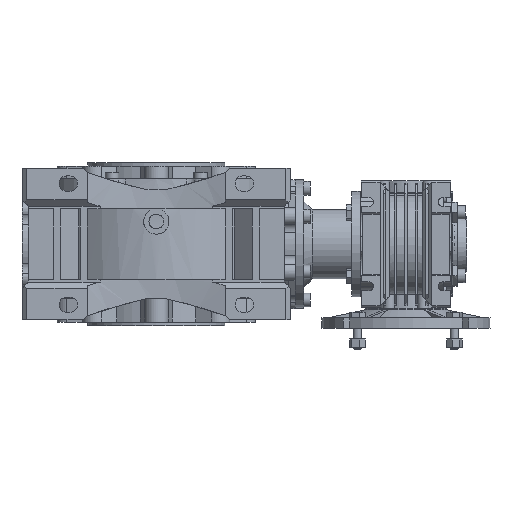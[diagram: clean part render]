
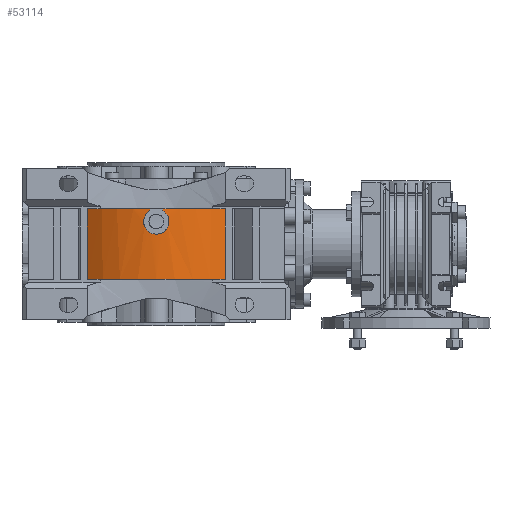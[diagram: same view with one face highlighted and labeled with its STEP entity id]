
A CAD part, front view. The second image highlights one B-rep face of the part: STEP entity #53114.
In plain terms, the highlighted cylindrical face has radius 107.7 mm (diameter 215.4 mm), a partial arc.
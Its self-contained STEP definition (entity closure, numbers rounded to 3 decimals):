
#1905=B_SPLINE_CURVE_WITH_KNOTS('',3,(#74558,#74559,#74560,#74561,#74562,
#74563,#74564,#74565,#74566,#74567,#74568,#74569,#74570,#74571,#74572,#74573,
#74574),.UNSPECIFIED.,.F.,.F.,(4,1,1,1,1,1,1,1,1,1,1,1,1,1,4),(0.,0.004,
0.008,0.012,0.016,0.02,
0.023,0.027,0.031,0.035,
0.039,0.047,0.051,0.055,
0.063),.UNSPECIFIED.);
#2463=CIRCLE('',#55632,107.7);
#2467=CIRCLE('',#55638,107.7);
#2469=CIRCLE('',#55640,107.7);
#6230=ORIENTED_EDGE('',*,*,#16209,.F.);
#6231=ORIENTED_EDGE('',*,*,#16742,.T.);
#6232=ORIENTED_EDGE('',*,*,#16743,.T.);
#6233=ORIENTED_EDGE('',*,*,#16744,.T.);
#6234=ORIENTED_EDGE('',*,*,#16215,.F.);
#6235=ORIENTED_EDGE('',*,*,#16220,.T.);
#6236=ORIENTED_EDGE('',*,*,#16200,.F.);
#6237=ORIENTED_EDGE('',*,*,#16218,.T.);
#16200=EDGE_CURVE('',#21679,#21680,#2463,.F.);
#16209=EDGE_CURVE('',#21686,#21688,#2467,.F.);
#16215=EDGE_CURVE('',#21693,#21694,#2469,.F.);
#16218=EDGE_CURVE('',#21679,#21688,#25132,.T.);
#16220=EDGE_CURVE('',#21693,#21680,#25134,.F.);
#16742=EDGE_CURVE('',#21686,#22043,#25501,.F.);
#16743=EDGE_CURVE('',#22043,#22044,#1905,.T.);
#16744=EDGE_CURVE('',#22044,#21694,#25502,.T.);
#21679=VERTEX_POINT('',#73477);
#21680=VERTEX_POINT('',#73479);
#21686=VERTEX_POINT('',#73495);
#21688=VERTEX_POINT('',#73498);
#21693=VERTEX_POINT('',#73508);
#21694=VERTEX_POINT('',#73510);
#22043=VERTEX_POINT('',#74557);
#22044=VERTEX_POINT('',#74575);
#25132=LINE('',#73515,#28582);
#25134=LINE('',#73518,#28584);
#25501=LINE('',#74556,#28951);
#25502=LINE('',#74576,#28952);
#28582=VECTOR('',#60786,1000.);
#28584=VECTOR('',#60790,1000.);
#28951=VECTOR('',#61769,1000.);
#28952=VECTOR('',#61770,1000.);
#31950=EDGE_LOOP('',(#6230,#6231,#6232,#6233,#6234,#6235,#6236,#6237));
#34622=FACE_BOUND('',#31950,.T.);
#36962=CYLINDRICAL_SURFACE('',#55948,107.7);
#53114=ADVANCED_FACE('',(#34622),#36962,.T.);
#55632=AXIS2_PLACEMENT_3D('',#73478,#60755,#60756);
#55638=AXIS2_PLACEMENT_3D('',#73497,#60772,#60773);
#55640=AXIS2_PLACEMENT_3D('',#73509,#60780,#60781);
#55948=AXIS2_PLACEMENT_3D('',#74555,#61767,#61768);
#60755=DIRECTION('',(0.,0.,-1.));
#60756=DIRECTION('',(-1.,0.,0.));
#60772=DIRECTION('',(0.,0.,1.));
#60773=DIRECTION('',(1.,0.,0.));
#60780=DIRECTION('',(0.,0.,1.));
#60781=DIRECTION('',(1.,0.,0.));
#60786=DIRECTION('',(0.,0.,-1.));
#60790=DIRECTION('',(0.,0.,-1.));
#61767=DIRECTION('',(0.,0.,-1.));
#61768=DIRECTION('',(-1.,0.,0.));
#61769=DIRECTION('',(0.,0.,-1.));
#61770=DIRECTION('',(0.,0.,-1.));
#73477=CARTESIAN_POINT('',(-65.5,-85.493,33.5));
#73478=CARTESIAN_POINT('',(0.,0.,33.5));
#73479=CARTESIAN_POINT('',(65.5,-85.493,33.5));
#73495=CARTESIAN_POINT('',(-6.,-107.533,-33.5));
#73497=CARTESIAN_POINT('',(0.,0.,-33.5));
#73498=CARTESIAN_POINT('',(-65.5,-85.493,-33.5));
#73508=CARTESIAN_POINT('',(65.5,-85.493,-33.5));
#73509=CARTESIAN_POINT('',(0.,0.,-33.5));
#73510=CARTESIAN_POINT('',(6.,-107.533,-33.5));
#73515=CARTESIAN_POINT('',(-65.5,-85.493,40.));
#73518=CARTESIAN_POINT('',(65.5,-85.493,40.));
#74555=CARTESIAN_POINT('',(0.,0.,40.));
#74556=CARTESIAN_POINT('',(-6.,-107.533,40.));
#74557=CARTESIAN_POINT('',(-6.,-107.533,-31.892));
#74558=CARTESIAN_POINT('',(-6.,-107.533,-31.892));
#74559=CARTESIAN_POINT('',(-7.144,-107.469,-31.232));
#74560=CARTESIAN_POINT('',(-9.176,-107.319,-29.561));
#74561=CARTESIAN_POINT('',(-11.284,-107.111,-26.182));
#74562=CARTESIAN_POINT('',(-12.189,-107.008,-22.308));
#74563=CARTESIAN_POINT('',(-11.802,-107.053,-18.344));
#74564=CARTESIAN_POINT('',(-10.161,-107.227,-14.719));
#74565=CARTESIAN_POINT('',(-7.445,-107.458,-11.816));
#74566=CARTESIAN_POINT('',(-3.94,-107.65,-9.937));
#74567=CARTESIAN_POINT('',(-0.012,-107.725,-9.283));
#74568=CARTESIAN_POINT('',(3.917,-107.651,-9.93));
#74569=CARTESIAN_POINT('',(8.603,-107.394,-12.423));
#74570=CARTESIAN_POINT('',(11.669,-107.068,-16.998));
#74571=CARTESIAN_POINT('',(12.19,-107.008,-22.286));
#74572=CARTESIAN_POINT('',(10.992,-107.144,-27.461));
#74573=CARTESIAN_POINT('',(8.288,-107.405,-30.572));
#74574=CARTESIAN_POINT('',(6.,-107.533,-31.892));
#74575=CARTESIAN_POINT('',(6.,-107.533,-31.892));
#74576=CARTESIAN_POINT('',(6.,-107.533,40.));
